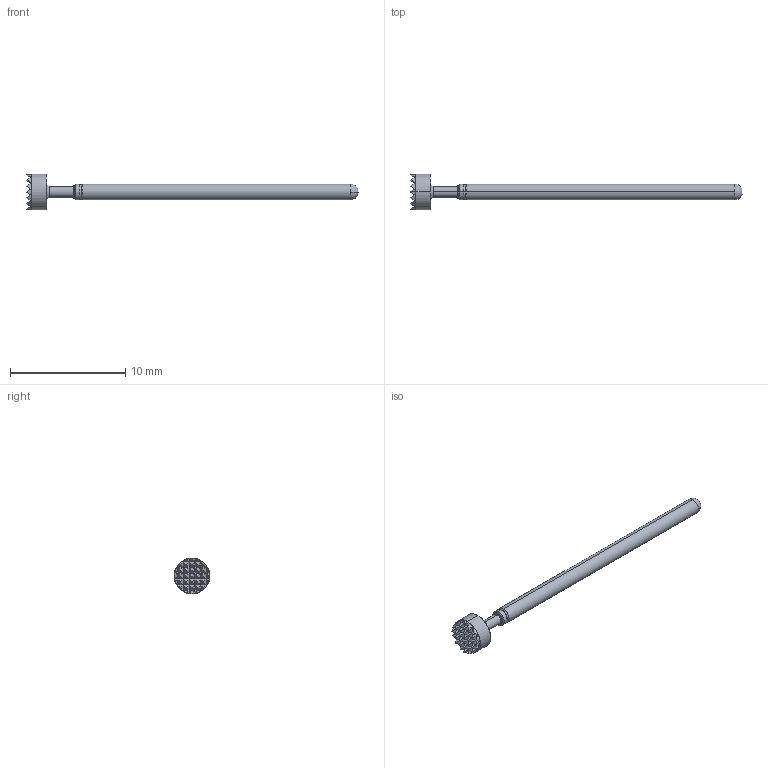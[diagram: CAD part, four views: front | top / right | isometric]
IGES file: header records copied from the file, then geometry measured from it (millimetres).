
Start section: SolidWorks IGES file using analytic representation for surfaces
Global section: file name: C:\Users\mrumschlag\Desktop\changes\new\test\POGO-25HM RECD.IGS; native system: SolidWorks 2011; preprocessor: SolidWorks 2011; author: mrumschlag; date: 110714.155458; units: inch
Bounding box: 28.78 x 3.1 x 3.1 mm (x, y, z)
Surface area: 149.9 mm2 (no closed solid volume)
Topology: 0 solids, 0 shells, 178 faces, 786 edges, 786 vertices
Faces by surface type: bspline 160, revolution 18
